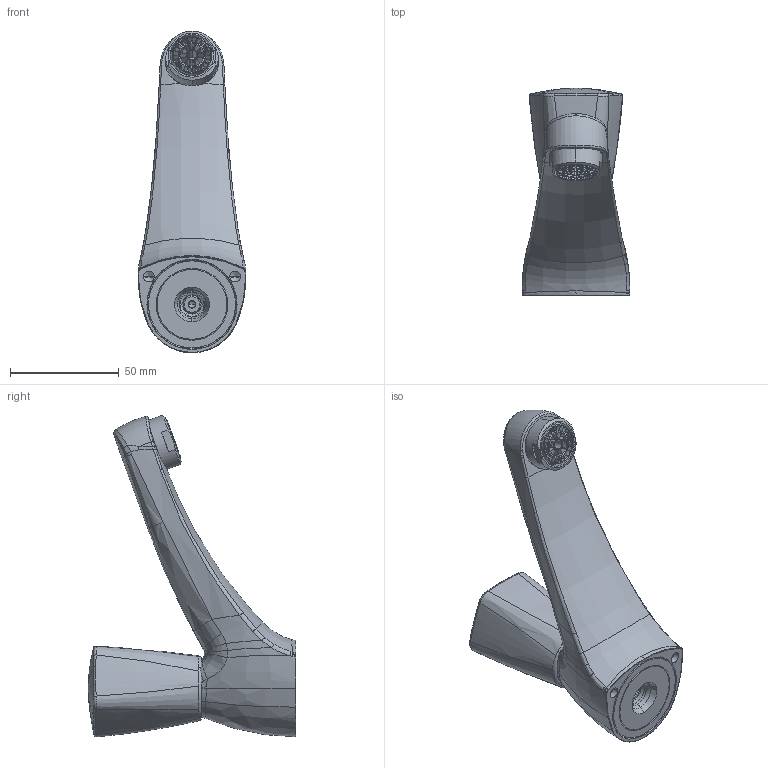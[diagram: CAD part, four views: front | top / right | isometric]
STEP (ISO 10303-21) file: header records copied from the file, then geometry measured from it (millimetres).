
FILE_DESCRIPTION((''),'2;1');
FILE_NAME('500465_ASM','2020-06-11T15:48:54',('LF994'),(''),'CREO PARAMETRIC BY PTC INC, 2018500','CREO PARAMETRIC BY PTC INC, 2018500','');
FILE_SCHEMA(('CONFIG_CONTROL_DESIGN'));
Length unit declared in the file: millimetre
Products named in the file (28): 600666_AF0; 607086; 505136_531785_AF0_ASM; 609229_AF0; 600327_AF0; 608405_AF0; 600324_AF0; 600671_AF0; 600669_AF0; 600670_AF0; 600668_AF0; 607027; 607481; 607482; 603026; 601966; 603712; 601972; 600780; 600777; 600022; 604882; 501546_ASM; 616467; 608705; 509581_ASM; 40_1001-1008_03300; 500465_ASM
Assembly tree (27 placements, depth 3):
  500465_ASM
    505136_531785_AF0_ASM
      600666_AF0
      607086
    609229_AF0
    600327_AF0
    608405_AF0
    600324_AF0
    600671_AF0
    600669_AF0
    600670_AF0
    600668_AF0
    501546_ASM
      607027
      607481
      607482
      603026
      601966
      603712
      601972
      600780
      600777
      600022
      604882
    509581_ASM
      616467
      608705
    40_1001-1008_03300
Bounding box: 49.46 x 95.3 x 147.73 mm (x, y, z)
Volume: 107663.2 mm3; surface area: 67212.8 mm2
Topology: 17 solids, 17 shells, 1401 faces, 3504 edges, 2164 vertices
Faces by surface type: plane 453, cylinder 348, bspline 336, cone 130, torus 119, sphere 14, revolution 1
Entity records: 58173 total; most frequent: CARTESIAN_POINT 26688, ORIENTED_EDGE 6976, DIRECTION 5899, EDGE_CURVE 3488, AXIS2_PLACEMENT_3D 2415, VERTEX_POINT 2164, EDGE_LOOP 1466, FACE_OUTER_BOUND 1401
